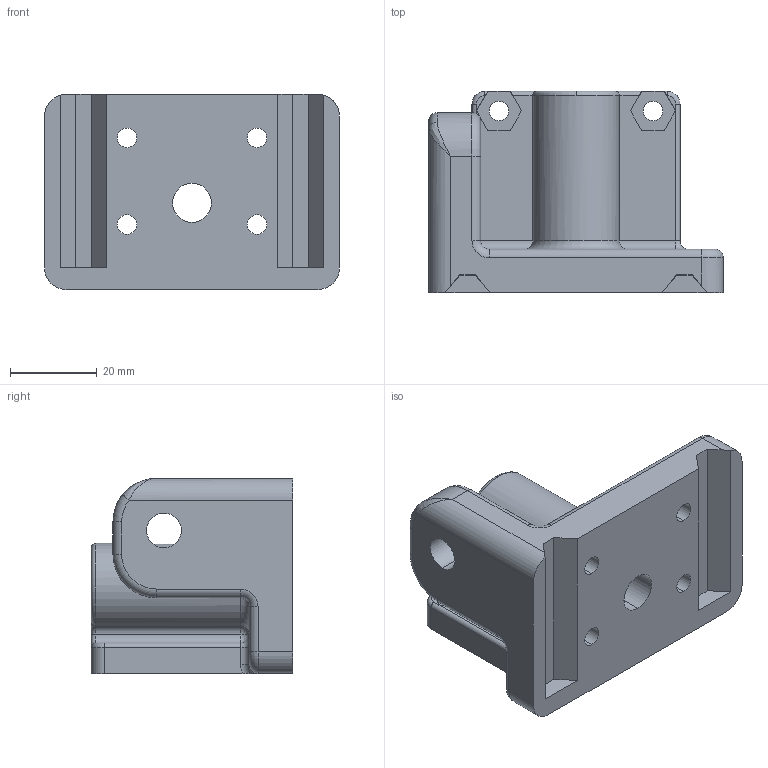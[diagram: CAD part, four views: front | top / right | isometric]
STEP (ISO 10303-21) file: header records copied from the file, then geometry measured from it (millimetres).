
FILE_DESCRIPTION (( 'STEP AP203' ), '1' );
FILE_NAME ('X ROD MOUNT TOP RIGHT.STEP', '2012-08-20T19:12:37', ( '' ), ( '' ), 'SwSTEP 2.0', 'SolidWorks 2012', '' );
FILE_SCHEMA (( 'CONFIG_CONTROL_DESIGN' ));
Length unit declared in the file: millimetre
Products named in the file (1): X ROD MOUNT TOP RIGHT
Bounding box: 68 x 46.45 x 45 mm (x, y, z)
Volume: 53841.1 mm3; surface area: 19057.8 mm2
Topology: 1 solids, 1 shells, 133 faces, 341 edges, 207 vertices
Faces by surface type: cylinder 55, plane 50, torus 23, sphere 4, bspline 1
Entity records: 4161 total; most frequent: CARTESIAN_POINT 782, DIRECTION 727, ORIENTED_EDGE 672, EDGE_CURVE 336, AXIS2_PLACEMENT_3D 268, VERTEX_POINT 207, VECTOR 191, LINE 191
